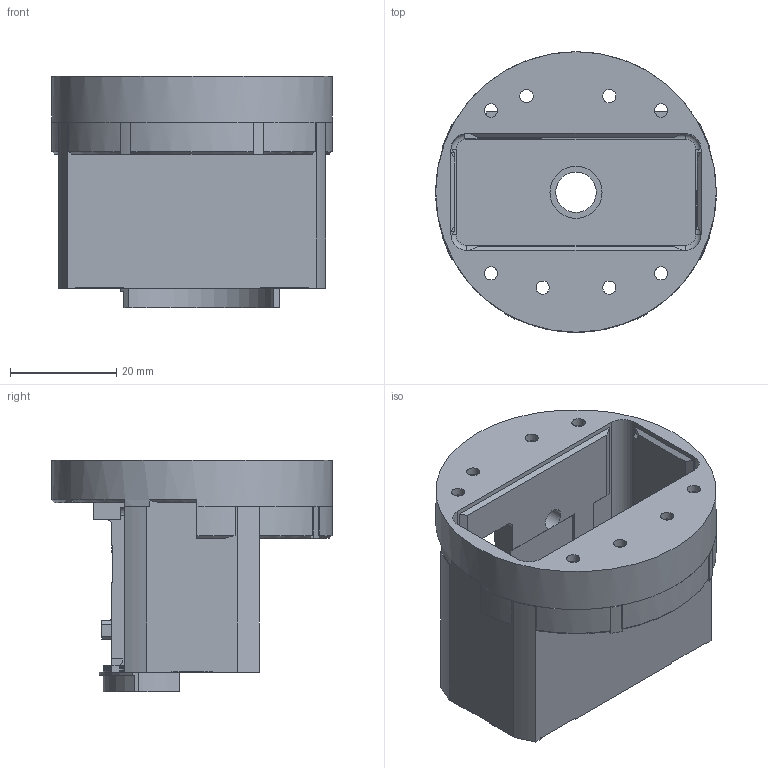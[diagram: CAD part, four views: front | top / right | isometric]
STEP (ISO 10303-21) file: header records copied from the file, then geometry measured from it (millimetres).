
FILE_DESCRIPTION(('Open CASCADE Model'),'2;1');
FILE_NAME('Open CASCADE Shape Model','2026-11-23T18:10:15',('Author'),( 'Open CASCADE'),'Open CASCADE STEP processor 8.0','build123d', 'Unknown');
FILE_SCHEMA(('AUTOMOTIVE_DESIGN { 1 0 10303 214 1 1 1 1 }'));
Length unit declared in the file: millimetre
Products named in the file (1): SOLID
Bounding box: 52.73 x 52.73 x 43.6 mm (x, y, z)
Volume: 17520.8 mm3; surface area: 18162.9 mm2
Topology: 1 solids, 1 shells, 585 faces, 1664 edges, 1083 vertices
Faces by surface type: plane 479, cylinder 53, cone 49, torus 4
Full cylindrical faces by diameter (mm): 2.05 x1, 2.5 x8, 4.1 x2, 7.3 x1, 7.6 x1, 8.3 x1, 9.8 x1, 52.73 x1
Entity records: 39980 total; most frequent: CARTESIAN_POINT 8515, DIRECTION 5298, LINE 3499, VECTOR 3499, ORIENTED_EDGE 3328, PCURVE 3328, DEFINITIONAL_REPRESENTATION 3328, EDGE_CURVE 1664
